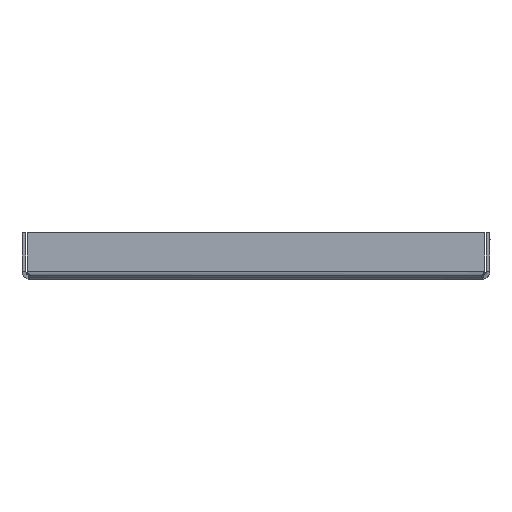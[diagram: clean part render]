
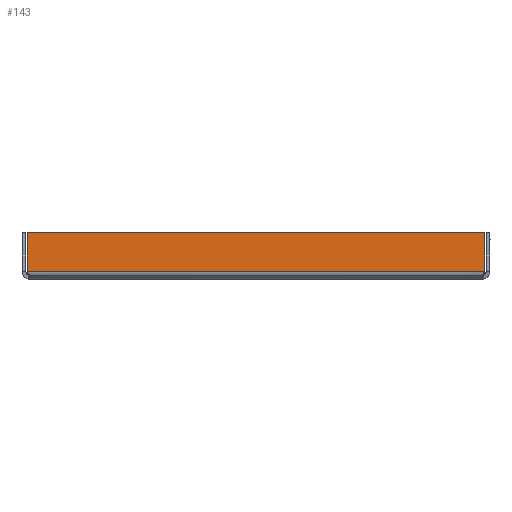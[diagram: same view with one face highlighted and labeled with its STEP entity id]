
A CAD part, front view. The second image highlights one B-rep face of the part: STEP entity #143.
In plain terms, the highlighted planar face has unit normal (0, -1, 0).
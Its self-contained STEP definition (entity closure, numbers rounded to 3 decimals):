
#143=ADVANCED_FACE('',(#2297),#2299,.F.);
#2297=FACE_BOUND('',#2298,.T.);
#2298=EDGE_LOOP('',(#6717,#6718,#6719,#6720));
#2299=PLANE('',#2300);
#2300=AXIS2_PLACEMENT_3D('',#2301,#2302,#2303);
#2301=CARTESIAN_POINT('',(0.,-348.5,0.));
#2302=DIRECTION('',(0.,1.,0.));
#2303=DIRECTION('',(0.,0.,1.));
#6717=ORIENTED_EDGE('',*,*,#9599,.F.);
#6718=ORIENTED_EDGE('',*,*,#9604,.T.);
#6719=ORIENTED_EDGE('',*,*,#9605,.F.);
#6720=ORIENTED_EDGE('',*,*,#9603,.F.);
#9599=EDGE_CURVE('',#12172,#12165,#12175,.T.);
#9603=EDGE_CURVE('',#12165,#12178,#12181,.T.);
#9604=EDGE_CURVE('',#12172,#12182,#12183,.T.);
#9605=EDGE_CURVE('',#12178,#12182,#12184,.T.);
#12165=VERTEX_POINT('',#17865);
#12172=VERTEX_POINT('',#18074);
#12175=LINE('',#18179,#18180);
#12178=VERTEX_POINT('',#18186);
#12181=LINE('',#18193,#18194);
#12182=VERTEX_POINT('',#18196);
#12183=LINE('',#18197,#18198);
#12184=LINE('',#18200,#18201);
#17865=CARTESIAN_POINT('',(-93.793,-348.5,1.8));
#18074=CARTESIAN_POINT('',(93.793,-348.5,1.8));
#18179=CARTESIAN_POINT('',(93.793,-348.5,1.8));
#18180=VECTOR('',#18181,1.);
#18181=DIRECTION('',(-1.,0.,0.));
#18186=CARTESIAN_POINT('',(-93.793,-348.5,17.5));
#18193=CARTESIAN_POINT('',(-93.793,-348.5,1.8));
#18194=VECTOR('',#18195,1.);
#18195=DIRECTION('',(0.,0.,1.));
#18196=CARTESIAN_POINT('',(93.793,-348.5,17.5));
#18197=CARTESIAN_POINT('',(93.793,-348.5,1.8));
#18198=VECTOR('',#18199,1.);
#18199=DIRECTION('',(0.,0.,1.));
#18200=CARTESIAN_POINT('',(-93.793,-348.5,17.5));
#18201=VECTOR('',#18202,1.);
#18202=DIRECTION('',(1.,0.,0.));
